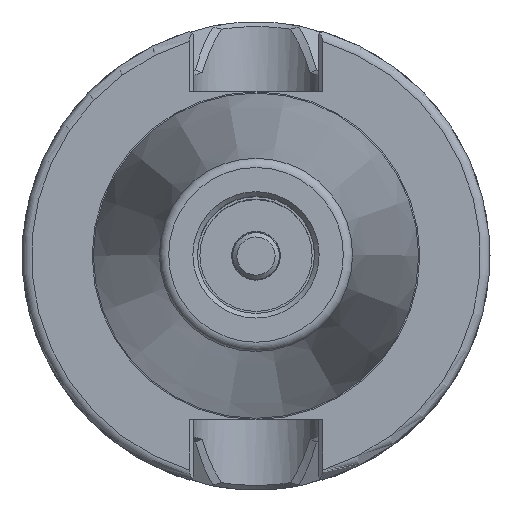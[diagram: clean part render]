
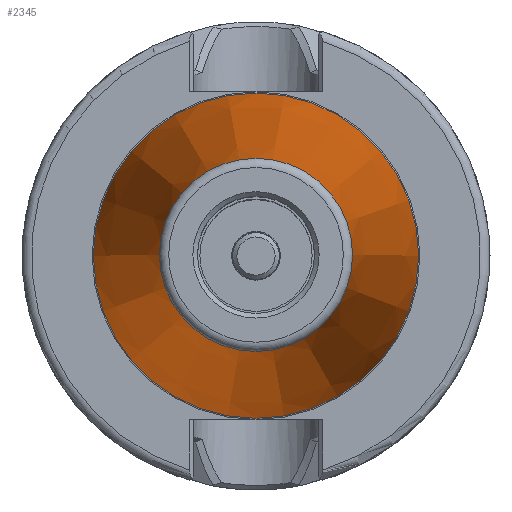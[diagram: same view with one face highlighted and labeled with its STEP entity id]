
A CAD part, top view. The second image highlights one B-rep face of the part: STEP entity #2345.
In plain terms, the highlighted conical face has half-angle 7.931 degrees and reference radius 27.575 mm.
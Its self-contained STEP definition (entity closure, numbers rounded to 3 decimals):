
#56=CONICAL_SURFACE('',#2574,27.575,0.138);
#399=LINE('',#4594,#554);
#554=VECTOR('',#3092,27.575);
#697=FACE_OUTER_BOUND('',#829,.T.);
#829=EDGE_LOOP('',(#2126,#2127,#2128,#2129,#2130,#2131));
#926=CIRCLE('',#2572,20.64);
#927=CIRCLE('',#2573,20.64);
#928=CIRCLE('',#2575,34.75);
#929=CIRCLE('',#2576,34.75);
#1152=VERTEX_POINT('',#4587);
#1153=VERTEX_POINT('',#4589);
#1154=VERTEX_POINT('',#4593);
#1155=VERTEX_POINT('',#4595);
#1486=EDGE_CURVE('',#1152,#1153,#926,.T.);
#1487=EDGE_CURVE('',#1153,#1152,#927,.T.);
#1488=EDGE_CURVE('',#1152,#1154,#399,.T.);
#1489=EDGE_CURVE('',#1154,#1155,#928,.T.);
#1490=EDGE_CURVE('',#1155,#1154,#929,.T.);
#2126=ORIENTED_EDGE('',*,*,#1487,.F.);
#2127=ORIENTED_EDGE('',*,*,#1486,.F.);
#2128=ORIENTED_EDGE('',*,*,#1488,.T.);
#2129=ORIENTED_EDGE('',*,*,#1489,.T.);
#2130=ORIENTED_EDGE('',*,*,#1490,.T.);
#2131=ORIENTED_EDGE('',*,*,#1488,.F.);
#2345=ADVANCED_FACE('',(#697),#56,.T.);
#2572=AXIS2_PLACEMENT_3D('',#4590,#3086,#3087);
#2573=AXIS2_PLACEMENT_3D('',#4591,#3088,#3089);
#2574=AXIS2_PLACEMENT_3D('',#4592,#3090,#3091);
#2575=AXIS2_PLACEMENT_3D('',#4596,#3093,#3094);
#2576=AXIS2_PLACEMENT_3D('',#4597,#3095,#3096);
#3086=DIRECTION('center_axis',(0.,0.,1.));
#3087=DIRECTION('ref_axis',(-1.,0.,0.));
#3088=DIRECTION('center_axis',(0.,0.,1.));
#3089=DIRECTION('ref_axis',(-1.,0.,0.));
#3090=DIRECTION('center_axis',(0.,0.,-1.));
#3091=DIRECTION('ref_axis',(1.,0.,0.));
#3092=DIRECTION('',(-0.138,0.,-0.99));
#3093=DIRECTION('center_axis',(0.,0.,1.));
#3094=DIRECTION('ref_axis',(1.,0.,0.));
#3095=DIRECTION('center_axis',(0.,0.,1.));
#3096=DIRECTION('ref_axis',(1.,0.,0.));
#4587=CARTESIAN_POINT('',(-20.64,0.,-1.724));
#4589=CARTESIAN_POINT('',(20.64,0.,-1.724));
#4590=CARTESIAN_POINT('Origin',(0.,0.,-1.724));
#4591=CARTESIAN_POINT('Origin',(0.,0.,-1.724));
#4592=CARTESIAN_POINT('Origin',(0.,0.,-51.5));
#4593=CARTESIAN_POINT('',(-34.75,0.,-103.));
#4594=CARTESIAN_POINT('',(-27.575,0.,-51.5));
#4595=CARTESIAN_POINT('',(34.75,0.,-103.));
#4596=CARTESIAN_POINT('Origin',(0.,0.,-103.));
#4597=CARTESIAN_POINT('Origin',(0.,0.,-103.));
